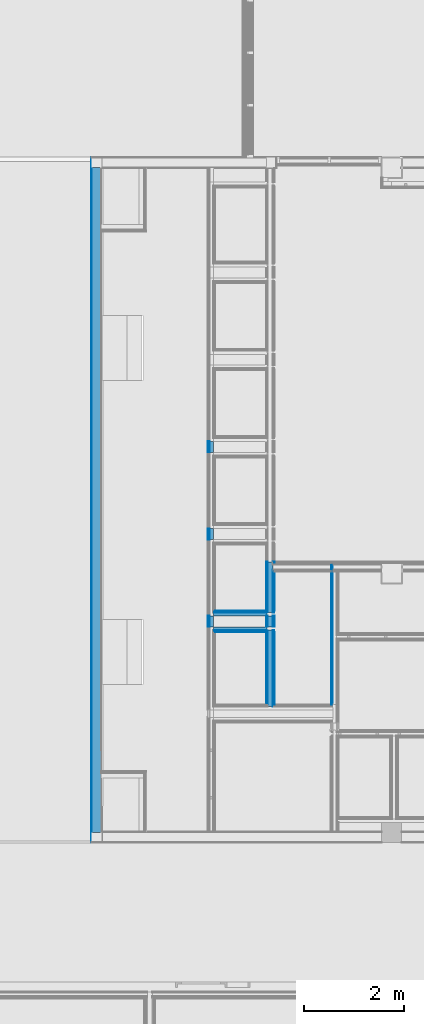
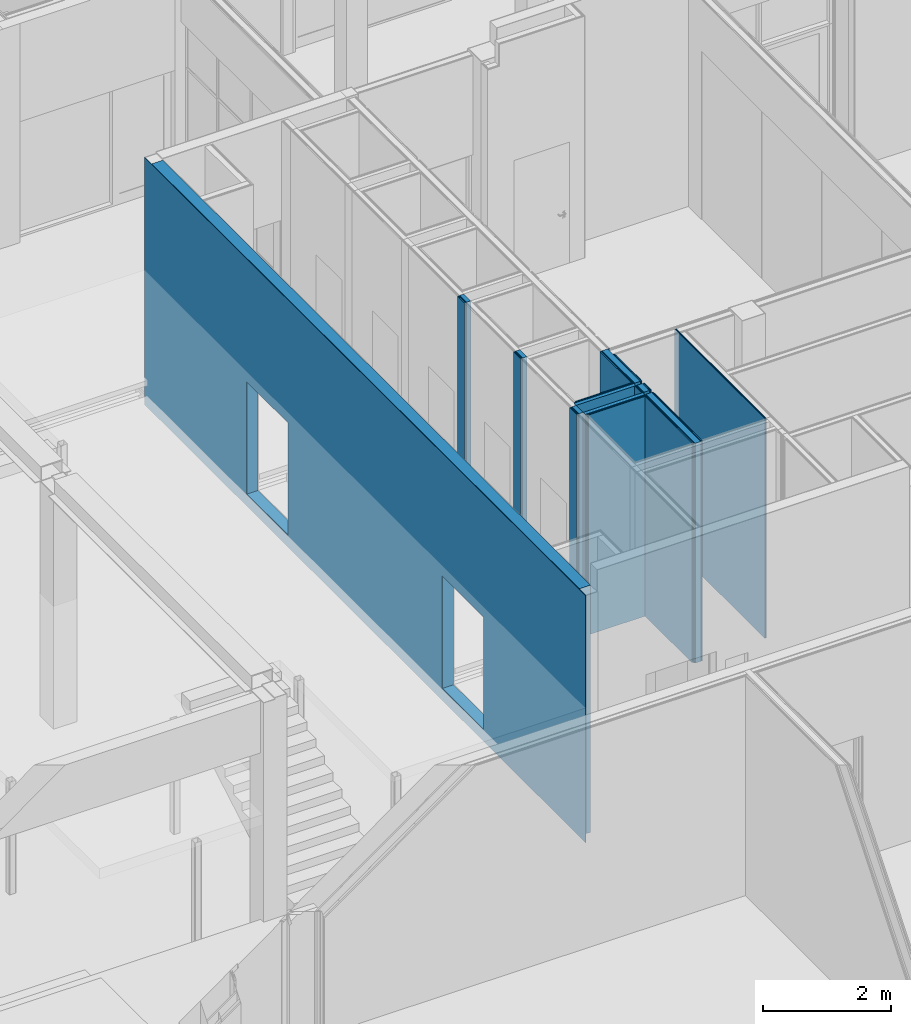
# One storey, part 204 of 260: 32 building element parts, 4 openings, 8 elements without a shape of their own.
"""IFC2X3 building model written with IfcOpenShell, lengths in millimetres."""

from ifc_helpers import new_model, entity, si_unit, converted_unit, derived_unit, money_unit, direction, frame, origin_with_axes, place, context, subcontext, project, spatial, faceted_brep, material, type_object, element, aggregate, save


model = new_model("IFC2X3")

# Units and contexts
model_context = context("Model", 3, precision=0.01, world=origin_with_axes(), true_north=direction((0.0, 1.0)))
body_context = subcontext(model_context, "Body", "Model", "MODEL_VIEW")
ifc_project = project(units=[si_unit("LENGTHUNIT", "METRE", prefix="MILLI"), si_unit("AREAUNIT", "SQUARE_METRE"), si_unit("VOLUMEUNIT", "CUBIC_METRE"), converted_unit("PLANEANGLEUNIT", "DEGREE", entity("IfcPlaneAngleMeasure", 0.0174532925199), si_unit("PLANEANGLEUNIT", "RADIAN"), dimensions=[0, 0, 0, 0, 0, 0, 0]), money_unit("EUR"), converted_unit("TIMEUNIT", "Year", entity("IfcTimeMeasure", 31556926.0), si_unit("TIMEUNIT", "SECOND"), dimensions=[0, 0, 1, 0, 0, 0, 0]), si_unit("MASSUNIT", "GRAM", prefix="KILO"), si_unit("THERMODYNAMICTEMPERATUREUNIT", "DEGREE_CELSIUS"), si_unit("LUMINOUSINTENSITYUNIT", "LUMEN"), si_unit("ENERGYUNIT", "JOULE", prefix="MEGA"), derived_unit("THERMALCONDUCTANCEUNIT", [(si_unit("POWERUNIT", "WATT"), 1), (si_unit("LENGTHUNIT", "METRE"), -1), (si_unit("THERMODYNAMICTEMPERATUREUNIT", "KELVIN"), -1)]), derived_unit("SPECIFICHEATCAPACITYUNIT", [(si_unit("ENERGYUNIT", "JOULE"), 1), (si_unit("MASSUNIT", "GRAM", prefix="KILO"), -1), (si_unit("THERMODYNAMICTEMPERATUREUNIT", "KELVIN"), -1)]), derived_unit("MASSDENSITYUNIT", [(si_unit("MASSUNIT", "GRAM", prefix="KILO"), 1), (si_unit("VOLUMEUNIT", "CUBIC_METRE"), -1)])], contexts=[model_context])

# Site, building, storey
site_placement = place(None, origin_with_axes())
site = spatial("IfcSite", under=ifc_project, at=site_placement, Name="Kolde pst 67a", CompositionType="ELEMENT")
building_placement = place(site_placement, origin_with_axes())
building = spatial("IfcBuilding", under=site, at=building_placement, Name="Riigigümnaasium", CompositionType="ELEMENT")
storey_placement = place(building_placement, origin_with_axes())
storey = spatial("IfcBuildingStorey", under=building, at=storey_placement, Name="1. korrus", CompositionType="ELEMENT", Elevation=0.0)

# Wall, building element parts
wall_type_1 = type_object("IfcWallType", Name="SS-PK-10/5_vill100+plaat+värv 175", PredefinedType="NOTDEFINED")
wall_1_placement = place(storey_placement, frame((67430.8800942, 13462.4993986, 0.0), z_axis=(0.0, 0.0, 1.0), x_axis=(1.07894535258e-06, 0.999999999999, 0.0)))
wall_1 = element("IfcWall", 1, at=wall_1_placement, inside=storey, type_object=wall_type_1, Name="Sisesein")
ifc_material_1 = material(Name="_VIIMISTLUSKIHT - viimistlus vastavalt SA osale")
building_element_part_1_placement = place(wall_1_placement, origin_with_axes())
building_element_part_1 = element("IfcBuildingElementPart", 2, at=building_element_part_1_placement, material=ifc_material_1, Name="_VIIMISTLUSKIHT - viimistlus vastavalt SA osale", context=body_context, shape_type="Brep", body=[
    faceted_brep([(1457.57821743, 0.0, 4185.0), (1457.57824453, -15.0, 4185.0), (1457.57824453, -15.0, 0.0), (1457.57821743, 0.0, 0.0), (-0.000384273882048, -15.0, 4185.0), (-0.000411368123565, 0.0, 4185.0), (-0.000384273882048, -15.0, 0.0), (-0.000411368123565, 0.0, 0.0)], [[[0, 1, 2, 3]], [[4, 1, 0, 5]], [[1, 4, 6, 2]], [[3, 2, 6, 7]], [[5, 0, 3, 7]], [[4, 5, 7, 6]]]),
    faceted_brep([(1781.50057256, 0.0, 4185.0), (1781.50058876, -15.0, 4185.0), (1781.50058876, -15.0, 0.0), (1781.50057256, 0.0, 0.0), (1563.57824453, -15.0, 4185.0), (1563.57821743, 0.0, 4185.0), (1563.57824453, -15.0, 0.0), (1563.57821743, 0.0, 0.0)], [[[0, 1, 2, 3]], [[4, 1, 0, 5]], [[1, 4, 6, 2]], [[3, 2, 6, 7]], [[5, 0, 3, 7]], [[4, 5, 7, 6]]]),
    faceted_brep([(2867.83404992, 0.0, 4185.0), (2867.83404992, -15.0, 4185.0), (2867.83404992, -15.0, 0.0), (2867.83404992, 0.0, 0.0), (1887.50058876, -15.0, 4185.0), (1887.50057256, 0.0, 4185.0), (1887.50058876, -15.0, 0.0), (1887.50057256, 0.0, 0.0)], [[[0, 1, 2, 3]], [[4, 1, 0, 5]], [[1, 4, 6, 2]], [[7, 3, 2, 6]], [[5, 0, 3, 7]], [[4, 5, 7, 6]]]),
])
ifc_material_2 = material(Name="_PLAATMATERJAL - kipsplaat veekindel")
building_element_part_2_placement = place(wall_1_placement, origin_with_axes())
building_element_part_2 = element("IfcBuildingElementPart", 3, at=building_element_part_2_placement, material=ifc_material_2, Name="_PLAATMATERJAL - kipsplaat veekindel", context=body_context, shape_type="Brep", body=[
    faceted_brep([(1472.57824453, -15.0, 4185.0), (1472.57826711, -27.5, 4185.0), (1472.57826711, -27.5, 0.0), (1472.57824453, -15.0, 0.0), (-15.0003616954, -27.5, 4185.0), (-15.0003842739, -15.0, 4185.0), (-15.0003616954, -27.5, 0.0), (-15.0003842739, -15.0, 0.0)], [[[0, 1, 2, 3]], [[4, 1, 0, 5]], [[1, 4, 6, 2]], [[3, 2, 6, 7]], [[5, 0, 3, 7]], [[4, 5, 7, 6]]]),
    faceted_brep([(1781.50058876, -15.0, 4185.0), (1781.50060226, -27.5, 4185.0), (1781.50060226, -27.5, 0.0), (1781.50058876, -15.0, 0.0), (1563.57826711, -27.5, 4185.0), (1563.57824453, -15.0, 4185.0), (1563.57826711, -27.5, 0.0), (1563.57824453, -15.0, 0.0)], [[[0, 1, 2, 3]], [[4, 1, 0, 5]], [[1, 4, 6, 2]], [[3, 2, 6, 7]], [[5, 0, 3, 7]], [[4, 5, 7, 6]]]),
    faceted_brep([(2867.83404992, -15.0, 4185.0), (2867.83404992, -27.5, 4185.0), (2867.83404992, -27.5, 0.0), (2867.83404992, -15.0, 0.0), (1872.50060226, -27.5, 4185.0), (1872.50058876, -15.0, 4185.0), (1872.50060226, -27.5, 0.0), (1872.50058876, -15.0, 0.0)], [[[0, 1, 2, 3]], [[4, 1, 0, 5]], [[1, 4, 6, 2]], [[7, 3, 2, 6]], [[5, 0, 3, 7]], [[4, 5, 7, 6]]]),
])
building_element_part_3_placement = place(wall_1_placement, origin_with_axes())
building_element_part_3 = element("IfcBuildingElementPart", 4, at=building_element_part_3_placement, material=ifc_material_2, Name="_PLAATMATERJAL - kipsplaat veekindel", context=body_context, shape_type="Brep", body=[
    faceted_brep([(1485.07826711, -27.5, 4185.0), (1485.07828968, -40.0, 4185.0), (1485.07828968, -40.0, 0.0), (1485.07826711, -27.5, 0.0), (-27.5003391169, -40.0, 4185.0), (-27.5003616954, -27.5, 4185.0), (-27.5003391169, -40.0, 0.0), (-27.5003616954, -27.5, 0.0)], [[[0, 1, 2, 3]], [[4, 1, 0, 5]], [[1, 4, 6, 2]], [[3, 2, 6, 7]], [[5, 0, 3, 7]], [[4, 5, 7, 6]]]),
    faceted_brep([(1781.50060226, -27.5, 4185.0), (1781.50061577, -40.0, 4185.0), (1781.50061577, -40.0, 0.0), (1781.50060226, -27.5, 0.0), (1563.57828968, -40.0, 4185.0), (1563.57826711, -27.5, 4185.0), (1563.57828968, -40.0, 0.0), (1563.57826711, -27.5, 0.0)], [[[0, 1, 2, 3]], [[4, 1, 0, 5]], [[1, 4, 6, 2]], [[3, 2, 6, 7]], [[5, 0, 3, 7]], [[4, 5, 7, 6]]]),
    faceted_brep([(2867.83404992, -27.5, 4185.0), (2867.83404992, -40.0, 4185.0), (2867.83404992, -40.0, 0.0), (2867.83404992, -27.5, 0.0), (1860.00061577, -40.0, 4185.0), (1860.00060226, -27.5, 4185.0), (1860.00061577, -40.0, 0.0), (1860.00060226, -27.5, 0.0)], [[[0, 1, 2, 3]], [[4, 1, 0, 5]], [[1, 4, 6, 2]], [[7, 3, 2, 6]], [[5, 0, 3, 7]], [[4, 5, 7, 6]]]),
])
ifc_material_3 = material(Name="_KARKASS - puitpruss 100x50mm vertikaalne, samm 600mm, vahel mineraalvill, helineeldetegur αw = 1.0, ISOVER ACOUSTIC 100mm või samaväärne")
building_element_part_4_placement = place(wall_1_placement, origin_with_axes())
building_element_part_4 = element("IfcBuildingElementPart", 5, at=building_element_part_4_placement, material=ifc_material_3, Name="_KARKASS - puitpruss 100x50mm vertikaalne, samm 600mm, vahel mineraalvill, helineeldetegur αw = 1.0, ISOVER ACOUSTIC 100mm või samaväärne", context=body_context, shape_type="Brep", body=[
    faceted_brep([(1497.57828968, -40.0, 4185.0), (1497.57847031, -140.0, 4185.0), (1497.57847031, -140.0, 0.0), (1497.57828968, -40.0, 0.0), (-40.0001584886, -140.0, 4185.0), (-40.0003391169, -40.0, 4185.0), (-40.0001584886, -140.0, 0.0), (-40.0003391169, -40.0, 0.0)], [[[0, 1, 2, 3]], [[4, 1, 0, 5]], [[1, 4, 6, 2]], [[3, 2, 6, 7]], [[5, 0, 3, 7]], [[4, 5, 7, 6]]]),
    faceted_brep([(1781.50061577, -40.0, 4185.0), (1781.5007238, -140.0, 4185.0), (1781.5007238, -140.0, 0.0), (1781.50061577, -40.0, 0.0), (1563.57847031, -140.0, 4185.0), (1563.57828968, -40.0, 4185.0), (1563.57847031, -140.0, 0.0), (1563.57828968, -40.0, 0.0)], [[[0, 1, 2, 3]], [[4, 1, 0, 5]], [[1, 4, 6, 2]], [[3, 2, 6, 7]], [[5, 0, 3, 7]], [[4, 5, 7, 6]]]),
    faceted_brep([(2867.83404992, -40.0, 4185.0), (2867.83404992, -140.0, 4185.0), (2867.83404992, -140.0, 0.0), (2867.83404992, -40.0, 0.0), (1847.5007238, -140.0, 4185.0), (1847.50061577, -40.0, 4185.0), (1847.5007238, -140.0, 0.0), (1847.50061577, -40.0, 0.0)], [[[0, 1, 2, 3]], [[4, 1, 0, 5]], [[1, 4, 6, 2]], [[7, 3, 2, 6]], [[5, 0, 3, 7]], [[4, 5, 7, 6]]]),
])
ifc_material_4 = material(Name="_PLAATMATERJAL - tuletõkkekipsplaat, Knauf Red GKF või samaväärne")
building_element_part_5_placement = place(wall_1_placement, origin_with_axes())
building_element_part_5 = element("IfcBuildingElementPart", 6, at=building_element_part_5_placement, material=ifc_material_4, Name="_PLAATMATERJAL - tuletõkkekipsplaat, Knauf Red GKF või samaväärne", context=body_context, shape_type="Brep", body=[
    faceted_brep([(2707.51178339, -140.0, 4185.0), (2707.51178879, -155.0, 4185.0), (2707.51178879, -155.0, 0.0), (2707.51178339, -140.0, 0.0), (1847.50074001, -155.0, 4185.0), (1847.5007238, -140.0, 4185.0), (1847.50074001, -155.0, 0.0), (1847.5007238, -140.0, 0.0)], [[[0, 1, 2, 3]], [[4, 1, 0, 5]], [[1, 4, 6, 2]], [[7, 3, 2, 6]], [[5, 0, 3, 7]], [[4, 5, 7, 6]]]),
    faceted_brep([(1497.57847031, -140.0, 4185.0), (1497.57849741, -155.0, 4185.0), (1497.57849741, -155.0, 0.0), (1497.57847031, -140.0, 0.0), (-40.0001313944, -155.0, 4185.0), (-40.0001584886, -140.0, 4185.0), (-40.0001313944, -155.0, 0.0), (-40.0001584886, -140.0, 0.0)], [[[0, 1, 2, 3]], [[4, 1, 0, 5]], [[1, 4, 6, 2]], [[3, 2, 6, 7]], [[5, 0, 3, 7]], [[4, 5, 7, 6]]]),
    faceted_brep([(1781.5007238, -140.0, 4185.0), (1781.50074001, -155.0, 4185.0), (1781.50074001, -155.0, 0.0), (1781.5007238, -140.0, 0.0), (1563.57849741, -155.0, 4185.0), (1563.57847031, -140.0, 4185.0), (1563.57849741, -155.0, 0.0), (1563.57847031, -140.0, 0.0)], [[[0, 1, 2, 3]], [[4, 1, 0, 5]], [[1, 4, 6, 2]], [[3, 2, 6, 7]], [[5, 0, 3, 7]], [[4, 5, 7, 6]]]),
    faceted_brep([(2867.83404992, -140.0, 4185.0), (2867.83404992, -155.0, 4185.0), (2867.83404992, -155.0, 0.0), (2867.83404992, -140.0, 0.0), (2847.51178879, -155.0, 4185.0), (2847.51178339, -140.0, 4185.0), (2847.51178879, -155.0, 0.0), (2847.51178339, -140.0, 0.0)], [[[0, 1, 2, 3]], [[4, 1, 0, 5]], [[1, 4, 6, 2]], [[2, 6, 7, 3]], [[5, 0, 3, 7]], [[4, 5, 7, 6]]]),
])
building_element_part_6_placement = place(wall_1_placement, origin_with_axes())
building_element_part_6 = element("IfcBuildingElementPart", 7, at=building_element_part_6_placement, material=ifc_material_4, Name="_PLAATMATERJAL - tuletõkkekipsplaat, Knauf Red GKF või samaväärne", context=body_context, shape_type="Brep", body=[
    faceted_brep([(2692.51178879, -155.0, 4185.0), (2692.51179419, -170.0, 4185.0), (2692.51179419, -170.0, 0.0), (2692.51178879, -155.0, 0.0), (1847.50075621, -170.0, 4185.0), (1847.50074001, -155.0, 4185.0), (1847.50075621, -170.0, 0.0), (1847.50074001, -155.0, 0.0)], [[[0, 1, 2, 3]], [[4, 1, 0, 5]], [[1, 4, 6, 2]], [[7, 3, 2, 6]], [[5, 0, 3, 7]], [[4, 5, 7, 6]]]),
    faceted_brep([(1497.57849741, -155.0, 4185.0), (1497.5785245, -170.0, 4185.0), (1497.5785245, -170.0, 0.0), (1497.57849741, -155.0, 0.0), (-40.0001043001, -170.0, 4185.0), (-40.0001313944, -155.0, 4185.0), (-40.0001043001, -170.0, 0.0), (-40.0001313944, -155.0, 0.0)], [[[0, 1, 2, 3]], [[4, 1, 0, 5]], [[1, 4, 6, 2]], [[3, 2, 6, 7]], [[5, 0, 3, 7]], [[4, 5, 7, 6]]]),
    faceted_brep([(1781.50074001, -155.0, 4185.0), (1781.50075621, -170.0, 4185.0), (1781.50075621, -170.0, 0.0), (1781.50074001, -155.0, 0.0), (1563.5785245, -170.0, 4185.0), (1563.57849741, -155.0, 4185.0), (1563.5785245, -170.0, 0.0), (1563.57849741, -155.0, 0.0)], [[[0, 1, 2, 3]], [[4, 1, 0, 5]], [[1, 4, 6, 2]], [[3, 2, 6, 7]], [[5, 0, 3, 7]], [[4, 5, 7, 6]]]),
    faceted_brep([(2867.83404992, -155.0, 4185.0), (2867.83404992, -170.0, 4185.0), (2867.83404992, -170.0, 0.0), (2867.83404992, -155.0, 0.0), (2847.51179419, -170.0, 4185.0), (2847.51178879, -155.0, 4185.0), (2847.51179419, -170.0, 0.0), (2847.51178879, -155.0, 0.0)], [[[0, 1, 2, 3]], [[4, 1, 0, 5]], [[1, 4, 6, 2]], [[2, 6, 7, 3]], [[5, 0, 3, 7]], [[4, 5, 7, 6]]]),
])
building_element_part_7_placement = place(wall_1_placement, origin_with_axes())
building_element_part_7 = element("IfcBuildingElementPart", 8, at=building_element_part_7_placement, material=ifc_material_1, Name="_VIIMISTLUSKIHT - viimistlus vastavalt SA osale", context=body_context, shape_type="Brep", body=[
    faceted_brep([(2677.51179419, -170.0, 4185.0), (2677.51179599, -175.0, 4185.0), (2677.51179599, -175.0, 0.0), (2677.51179419, -170.0, 0.0), (1887.50076161, -175.0, 4185.0), (1887.50075621, -170.0, 4185.0), (1887.50076161, -175.0, 0.0), (1887.50075621, -170.0, 0.0)], [[[0, 1, 2, 3]], [[4, 1, 0, 5]], [[1, 4, 6, 2]], [[7, 3, 2, 6]], [[5, 0, 3, 7]], [[4, 5, 7, 6]]]),
    faceted_brep([(1457.5785245, -170.0, 4185.0), (1457.57853353, -175.0, 4185.0), (1457.57853353, -175.0, 0.0), (1457.5785245, -170.0, 0.0), (-9.52686516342e-05, -175.0, 4185.0), (-0.000104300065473, -170.0, 4185.0), (-9.52686516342e-05, -175.0, 0.0), (-0.000104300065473, -170.0, 0.0)], [[[0, 1, 2, 3]], [[4, 1, 0, 5]], [[1, 4, 6, 2]], [[3, 2, 6, 7]], [[5, 0, 3, 7]], [[4, 5, 7, 6]]]),
    faceted_brep([(1781.50075621, -170.0, 4185.0), (1781.50076161, -175.0, 4185.0), (1781.50076161, -175.0, 0.0), (1781.50075621, -170.0, 0.0), (1563.57853353, -175.0, 4185.0), (1563.5785245, -170.0, 4185.0), (1563.57853353, -175.0, 0.0), (1563.5785245, -170.0, 0.0)], [[[0, 1, 2, 3]], [[4, 1, 0, 5]], [[1, 4, 6, 2]], [[3, 2, 6, 7]], [[5, 0, 3, 7]], [[4, 5, 7, 6]]]),
    faceted_brep([(2867.83404992, -170.0, 4185.0), (2867.83404992, -175.0, 4185.0), (2867.83404992, -175.0, 0.0), (2867.83404992, -170.0, 0.0), (2847.51179599, -175.0, 4185.0), (2847.51179419, -170.0, 4185.0), (2847.51179599, -175.0, 0.0), (2847.51179419, -170.0, 0.0)], [[[0, 1, 2, 3]], [[4, 1, 0, 5]], [[1, 4, 6, 2]], [[2, 6, 7, 3]], [[5, 0, 3, 7]], [[4, 5, 7, 6]]]),
])
aggregate(wall_1, [building_element_part_1, building_element_part_2, building_element_part_3, building_element_part_4, building_element_part_5, building_element_part_6, building_element_part_7])

# Wall, openings, building element parts
wall_type_2 = type_object("IfcWallType", Name="SS-RB-20/1_+2 krohv 55 dB 220", PredefinedType="NOTDEFINED")
wall_2_placement = place(storey_placement, frame((64129.9506145, 10689.9619409, -520.0), z_axis=(0.0, 0.0, 1.0), x_axis=(-3.00795503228e-05, 0.999999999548, 0.0)))
wall_2 = element("IfcWall", 9, at=wall_2_placement, inside=storey, type_object=wall_type_2, Name="Sisesein")
opening_1_placement = place(wall_2_placement, origin_with_axes())
element("IfcOpeningElement", 10, at=opening_1_placement, cuts=wall_2, Name="Pale", context=body_context, shape_type="Brep", body=[
    faceted_brep([(10.0, 200.0, 0.0), (0.0, 200.0, 0.0), (0.0, 200.0, 4705.0), (10.0, 200.0, 4705.0), (10.0, -9.99999999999, 0.0), (0.0, -9.99999999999, 0.0), (0.0, -9.99999999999, 4705.0), (10.0, -9.99999999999, 4705.0)], [[[0, 1, 2, 3]], [[0, 4, 5, 1]], [[1, 5, 6, 2]], [[3, 2, 6, 7]], [[4, 0, 3, 7]], [[5, 4, 7, 6]]]),
    faceted_brep([(210.0, 200.0, 0.0), (10.0, 200.0, 0.0), (10.0, 200.0, 4705.0), (210.0, 200.0, 4705.0), (210.0, 0.0, 0.0), (10.0, 0.0, 0.0), (10.0, 0.0, 4705.0), (210.0, 0.0, 4705.0)], [[[0, 1, 2, 3]], [[0, 4, 5, 1]], [[1, 5, 6, 2]], [[3, 2, 6, 7]], [[4, 0, 3, 7]], [[5, 4, 7, 6]]]),
])
opening_2_placement = place(wall_2_placement, frame((13760.038038, 0.0, 0.0), z_axis=(0.0, 0.0, 1.0), x_axis=(1.0, 0.0, 0.0)))
element("IfcOpeningElement", 11, at=opening_2_placement, cuts=wall_2, Name="Pale", context=body_context, shape_type="Brep", body=[
    faceted_brep([(-10.0, -10.0, 0.0), (0.0, -10.0, 0.0), (0.0, -10.0, 4705.0), (-10.0, -10.0, 4705.0), (-10.0, 200.0, 0.0), (0.0, 200.0, 0.0), (0.0, 200.0, 4705.0), (-10.0, 200.0, 4705.0)], [[[0, 1, 2, 3]], [[0, 4, 5, 1]], [[1, 5, 6, 2]], [[3, 2, 6, 7]], [[4, 0, 3, 7]], [[5, 4, 7, 6]]]),
    faceted_brep([(-210.0, 0.0, 0.0), (-10.0, 0.0, 0.0), (-10.0, 0.0, 4705.0), (-210.0, 0.0, 4705.0), (-210.0, 200.0, 0.0), (-10.0, 200.0, 0.0), (-10.0, 200.0, 4705.0), (-210.0, 200.0, 4705.0)], [[[0, 1, 2, 3]], [[0, 4, 5, 1]], [[1, 5, 6, 2]], [[3, 2, 6, 7]], [[4, 0, 3, 7]], [[5, 4, 7, 6]]]),
])
opening_3_placement = place(wall_2_placement, frame((9930.06634312, 0.0, 220.0), z_axis=(0.0, 0.0, 1.0), x_axis=(1.0, 0.0, 0.0)))
element("IfcOpeningElement", 12, at=opening_3_placement, cuts=wall_2, Name="Ukseava", context=body_context, shape_type="Brep", body=[
    faceted_brep([(649.978577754, 220.0, 0.0), (649.978577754, 220.0, 2145.0), (649.978577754, -440.0, 2145.0), (649.978577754, -440.0, 0.0), (-649.978577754, 220.0, 0.0), (-649.978577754, 220.0, 2145.0), (-649.978577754, -440.0, 2145.0), (-649.978577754, -440.0, 0.0)], [[[0, 1, 2, 3]], [[0, 4, 5, 1]], [[1, 5, 6, 2]], [[3, 2, 6, 7]], [[4, 0, 3, 7]], [[5, 4, 7, 6]]]),
])
opening_4_placement = place(wall_2_placement, frame((3829.99984867, 0.0, 220.0), z_axis=(0.0, 0.0, 1.0), x_axis=(1.0, 0.0, 0.0)))
element("IfcOpeningElement", 13, at=opening_4_placement, cuts=wall_2, Name="Ukseava", context=body_context, shape_type="Brep", body=[
    faceted_brep([(-650.000151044, -440.0, 0.0), (-650.000151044, -440.0, 2145.0), (-650.000151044, 220.0, 2145.0), (-650.000151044, 220.0, 0.0), (650.000151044, -440.0, 0.0), (650.000151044, -440.0, 2145.0), (650.000151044, 220.0, 2145.0), (650.000151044, 220.0, 0.0)], [[[0, 1, 2, 3]], [[0, 4, 5, 1]], [[1, 5, 6, 2]], [[3, 2, 6, 7]], [[4, 0, 3, 7]], [[5, 4, 7, 6]]]),
])
building_element_part_8_placement = place(wall_2_placement, origin_with_axes())
building_element_part_8 = element("IfcBuildingElementPart", 14, at=building_element_part_8_placement, material=ifc_material_1, Name="_VIIMISTLUSKIHT - viimistlus vastavalt SA osale", context=body_context, shape_type="Brep", body=[
    faceted_brep([(0.0, 210.0, 0.0), (0.0, 210.0, 4705.0), (13760.038038, 210.0, 4705.0), (13760.038038, 210.0, 0.0), (10580.0449209, 210.0, 2365.0), (9280.08776537, 210.0, 2365.0), (9280.08776537, 210.0, 220.0), (10580.0449209, 210.0, 220.0), (4479.99999971, 210.0, 220.0), (4479.99999971, 210.0, 2365.0), (3179.99969762, 210.0, 2365.0), (3179.99969762, 210.0, 220.0), (0.0, 200.0, 4705.0), (0.0, 200.0, 0.0), (13760.038038, 200.0, 4705.0), (13760.038038, 200.0, 0.0), (9280.08776537, 200.0, 2365.0), (10580.0449209, 200.0, 2365.0), (9280.08776537, 200.0, 220.0), (10580.0449209, 200.0, 220.0), (4479.99999971, 200.0, 220.0), (4479.99999971, 200.0, 2365.0), (3179.99969762, 200.0, 2365.0), (3179.99969762, 200.0, 220.0)], [[[0, 1, 2, 3], [4, 5, 6, 7], [8, 9, 10, 11]], [[12, 1, 0, 13]], [[1, 12, 14, 2]], [[14, 15, 3, 2]], [[13, 0, 3, 15]], [[16, 5, 4, 17]], [[18, 6, 5, 16]], [[19, 7, 6, 18]], [[17, 4, 7, 19]], [[20, 21, 9, 8]], [[21, 22, 10, 9]], [[22, 23, 11, 10]], [[23, 20, 8, 11]], [[12, 13, 15, 14], [18, 16, 17, 19], [20, 23, 22, 21]]]),
])
ifc_material_5 = material(Name="_KANDETARIND - monteeritav raudbetoon vastavalt EK osale")
building_element_part_9_placement = place(wall_2_placement, origin_with_axes())
building_element_part_9 = element("IfcBuildingElementPart", 15, at=building_element_part_9_placement, material=ifc_material_5, Name="_KANDETARIND - monteeritav raudbetoon vastavalt EK osale", context=body_context, shape_type="Brep", body=[
    faceted_brep([(210.0, 200.0, 0.0), (210.0, 200.0, 4705.0), (13550.038038, 200.0, 4705.0), (13550.038038, 200.0, 0.0), (10580.0449209, 200.0, 2365.0), (9280.08776537, 200.0, 2365.0), (9280.08776537, 200.0, 220.0), (10580.0449209, 200.0, 220.0), (4479.99999971, 200.0, 220.0), (4479.99999971, 200.0, 2365.0), (3179.99969762, 200.0, 2365.0), (3179.99969762, 200.0, 220.0), (210.0, 0.0, 0.0), (210.0, 0.0, 4705.0), (13550.038038, 0.0, 4705.0), (13550.038038, 0.0, 0.0), (9280.08776537, 0.0, 2365.0), (10580.0449209, 0.0, 2365.0), (9280.08776537, 0.0, 220.0), (10580.0449209, 0.0, 220.0), (4479.99999971, 0.0, 220.0), (4479.99999971, 0.0, 2365.0), (3179.99969762, 0.0, 2365.0), (3179.99969762, 0.0, 220.0)], [[[0, 1, 2, 3], [4, 5, 6, 7], [8, 9, 10, 11]], [[12, 13, 1, 0]], [[1, 13, 14, 2]], [[15, 3, 2, 14]], [[12, 0, 3, 15]], [[16, 5, 4, 17]], [[18, 6, 5, 16]], [[19, 7, 6, 18]], [[17, 4, 7, 19]], [[20, 21, 9, 8]], [[21, 22, 10, 9]], [[22, 23, 11, 10]], [[23, 20, 8, 11]], [[13, 12, 15, 14], [18, 16, 17, 19], [20, 23, 22, 21]]]),
])
aggregate(wall_2, [building_element_part_8, building_element_part_9])

# Wall, building element parts
wall_type_3 = type_object("IfcWallType", Name="SS-MK-7,5/1_plaat+värv 145", PredefinedType="NOTDEFINED")
wall_3_placement = place(storey_placement, frame((68889.9994775, 16130.0101654, 0.0), z_axis=(0.0, 0.0, 1.0), x_axis=(0.0, -1.0, 0.0)))
wall_3 = element("IfcWall", 16, at=wall_3_placement, inside=storey, type_object=wall_type_3, Name="Sisesein")
building_element_part_10_placement = place(wall_3_placement, origin_with_axes())
building_element_part_10 = element("IfcBuildingElementPart", 17, at=building_element_part_10_placement, material=ifc_material_2, Name="_PLAATMATERJAL - kipsplaat veekindel", context=body_context, shape_type="Brep", body=[
    faceted_brep([(-140.000091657, -127.5, 4185.0), (-140.000082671, -115.000000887, 4185.0), (-140.000082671, -115.0, 0.0), (-140.000091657, -127.5, 0.0), (2667.51022955, -115.0, 4185.0), (2667.51022955, -127.5, 4185.0), (2667.51022955, -115.0, 0.0), (2667.51022955, -127.5, 0.0)], [[[0, 1, 2, 3]], [[4, 1, 0, 5]], [[1, 4, 6, 2]], [[7, 3, 2, 6]], [[5, 0, 3, 7]], [[4, 5, 7, 6]]]),
])
building_element_part_11_placement = place(wall_3_placement, origin_with_axes())
building_element_part_11 = element("IfcBuildingElementPart", 18, at=building_element_part_11_placement, material=ifc_material_2, Name="_PLAATMATERJAL - kipsplaat veekindel", context=body_context, shape_type="Brep", body=[
    faceted_brep([(-140.000100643, -139.99999734, 4185.0), (-140.000091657, -127.5, 4185.0), (-140.000091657, -127.5, 0.0), (-140.000100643, -140.0, 0.0), (2667.51022955, -127.5, 4185.0), (2667.51022955, -140.0, 4185.0), (2667.51022955, -127.5, 0.0), (2667.51022955, -140.0, 0.0)], [[[0, 1, 2, 3]], [[4, 1, 0, 5]], [[1, 4, 6, 2]], [[7, 3, 2, 6]], [[5, 0, 3, 7]], [[4, 5, 7, 6]]]),
])
building_element_part_12_placement = place(wall_3_placement, origin_with_axes())
building_element_part_12 = element("IfcBuildingElementPart", 19, at=building_element_part_12_placement, material=ifc_material_1, Name="_VIIMISTLUSKIHT - viimistlus vastavalt SA osale", context=body_context, shape_type="Brep", body=[
    faceted_brep([(-140.000104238, -145.0, 4185.0), (-140.000100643, -139.99999734, 4185.0), (-140.000100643, -140.0, 0.0), (-140.000104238, -145.0, 0.0), (2667.51022955, -140.0, 4185.0), (2667.51022955, -145.0, 4185.0), (2667.51022955, -140.0, 0.0), (2667.51022955, -145.0, 0.0)], [[[0, 1, 2, 3]], [[4, 1, 0, 5]], [[1, 4, 6, 2]], [[7, 3, 2, 6]], [[5, 0, 3, 7]], [[4, 5, 7, 6]]]),
])
aggregate(wall_3, [building_element_part_10, building_element_part_11, building_element_part_12])

wall_type_4 = type_object("IfcWallType", Name="SS-MK-66/3_šahti sein+plaat 106", PredefinedType="NOTDEFINED")
wall_4_placement = place(storey_placement, frame((67450.8824177, 15349.9999712, 0.0), z_axis=(0.0, 0.0, 1.0), x_axis=(-1.0, -1.39468047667e-09, 0.0)))
wall_4 = element("IfcWall", 20, at=wall_4_placement, inside=storey, type_object=wall_type_4, Name="Sisesein")
ifc_material_6 = material(Name="_KARKASS - metallkarkass CW 75/50, mineraalvill karkassi vahel")
building_element_part_13_placement = place(wall_4_placement, origin_with_axes())
building_element_part_13 = element("IfcBuildingElementPart", 21, at=building_element_part_13_placement, material=ifc_material_6, Name="_KARKASS - metallkarkass CW 75/50, mineraalvill karkassi vahel", context=body_context, shape_type="Brep", body=[
    faceted_brep([(1074.99488226, 39.9999985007, 4185.0), (5.57776047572e-08, 40.0, 4185.0), (5.57776047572e-08, 40.0, 0.0), (1074.99488226, 39.9999985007, 0.0), (1.47835521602e-07, 106.0, 4185.0), (1074.99488235, 105.999998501, 4185.0), (1.47835521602e-07, 106.0, 0.0), (1074.99488235, 105.999998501, 0.0)], [[[0, 1, 2, 3]], [[4, 1, 0, 5]], [[1, 4, 6, 2]], [[7, 3, 2, 6]], [[5, 0, 3, 7]], [[4, 5, 7, 6]]]),
])
building_element_part_14_placement = place(wall_4_placement, origin_with_axes())
building_element_part_14 = element("IfcBuildingElementPart", 22, at=building_element_part_14_placement, material=ifc_material_2, Name="_PLAATMATERJAL - kipsplaat veekindel", context=body_context, shape_type="Brep", body=[
    faceted_brep([(1062.49488224, 27.4999985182, 4185.0), (3.83550968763e-08, 27.5, 4185.0), (3.83550968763e-08, 27.5, 0.0), (1062.49488224, 27.4999985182, 0.0), (5.57776047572e-08, 40.0, 4185.0), (1062.49488226, 39.9999985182, 4185.0), (5.57776047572e-08, 40.0, 0.0), (1062.49488226, 39.9999985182, 0.0)], [[[0, 1, 2, 3]], [[4, 1, 0, 5]], [[1, 4, 6, 2]], [[7, 3, 2, 6]], [[5, 0, 3, 7]], [[4, 5, 7, 6]]]),
])
building_element_part_15_placement = place(wall_4_placement, origin_with_axes())
building_element_part_15 = element("IfcBuildingElementPart", 23, at=building_element_part_15_placement, material=ifc_material_2, Name="_PLAATMATERJAL - kipsplaat veekindel", context=body_context, shape_type="Brep", body=[
    faceted_brep([(1049.99488222, 14.9999985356, 4185.0), (2.09183781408e-08, 15.0, 4185.0), (2.09183781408e-08, 15.0, 0.0), (1049.99488222, 14.9999985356, 0.0), (3.83550968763e-08, 27.5, 4185.0), (1049.99488224, 27.4999985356, 4185.0), (3.83550968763e-08, 27.5, 0.0), (1049.99488224, 27.4999985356, 0.0)], [[[0, 1, 2, 3]], [[4, 1, 0, 5]], [[1, 4, 6, 2]], [[7, 3, 2, 6]], [[5, 0, 3, 7]], [[4, 5, 7, 6]]]),
])
building_element_part_16_placement = place(wall_4_placement, origin_with_axes())
building_element_part_16 = element("IfcBuildingElementPart", 24, at=building_element_part_16_placement, material=ifc_material_1, Name="_VIIMISTLUSKIHT - viimistlus vastavalt SA osale", context=body_context, shape_type="Brep", body=[
    faceted_brep([(1034.9948822, -1.44348710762e-06, 4185.0), (5.00028700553, -6.97220059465e-09, 4185.0), (5.00028700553, -6.97220059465e-09, 0.0), (1034.9948822, -1.44348710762e-06, 0.0), (5.00030321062, 14.999999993, 4185.0), (1034.99488222, 14.9999985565, 4185.0), (5.00030321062, 14.999999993, 0.0), (1034.99488222, 14.9999985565, 0.0)], [[[0, 1, 2, 3]], [[4, 1, 0, 5]], [[1, 4, 6, 2]], [[3, 2, 6, 7]], [[5, 0, 3, 7]], [[4, 5, 7, 6]]]),
])
aggregate(wall_4, [building_element_part_13, building_element_part_14, building_element_part_15, building_element_part_16])

wall_5_placement = place(storey_placement, frame((67450.8821599, 14920.0776306, 0.0), z_axis=(0.0, 0.0, 1.0), x_axis=(-1.0, -7.27337341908e-07, 0.0)))
wall_5 = element("IfcWall", 25, at=wall_5_placement, inside=storey, type_object=wall_type_4, Name="Varisein")
building_element_part_17_placement = place(wall_5_placement, origin_with_axes())
building_element_part_17 = element("IfcBuildingElementPart", 26, at=building_element_part_17_placement, material=ifc_material_1, Name="_VIIMISTLUSKIHT - viimistlus vastavalt SA osale", context=body_context, shape_type="Brep", body=[
    faceted_brep([(1034.99461347, -15.0, 4185.0), (5.00046595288, -15.0, 4185.0), (5.00046595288, -15.0, 0.0), (1034.99461347, -15.0, 0.0), (5.00049304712, 0.0, 4185.0), (1034.99462438, 0.0, 4185.0), (5.00049304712, 0.0, 0.0), (1034.99462438, 0.0, 0.0)], [[[0, 1, 2, 3]], [[4, 1, 0, 5]], [[1, 4, 6, 2]], [[3, 2, 6, 7]], [[5, 0, 3, 7]], [[4, 5, 7, 6]]]),
])
building_element_part_18_placement = place(wall_5_placement, origin_with_axes())
building_element_part_18 = element("IfcBuildingElementPart", 27, at=building_element_part_18_placement, material=ifc_material_2, Name="_PLAATMATERJAL - kipsplaat veekindel", context=body_context, shape_type="Brep", body=[
    faceted_brep([(1049.99460438, -27.5, 4185.0), (0.0, -27.5, 4185.0), (0.0, -27.5, 0.0), (1049.99460438, -27.5, 0.0), (0.0, -15.0, 4185.0), (1049.99461347, -15.0, 4185.0), (0.0, -15.0, 0.0), (1049.99461347, -15.0, 0.0)], [[[0, 1, 2, 3]], [[4, 1, 0, 5]], [[1, 4, 6, 2]], [[7, 3, 2, 6]], [[5, 0, 3, 7]], [[4, 5, 7, 6]]]),
])
building_element_part_19_placement = place(wall_5_placement, origin_with_axes())
building_element_part_19 = element("IfcBuildingElementPart", 28, at=building_element_part_19_placement, material=ifc_material_2, Name="_PLAATMATERJAL - kipsplaat veekindel", context=body_context, shape_type="Brep", body=[
    faceted_brep([(1062.49459529, -40.0, 4185.0), (0.0, -40.0, 4185.0), (0.0, -40.0, 0.0), (1062.49459529, -40.0, 0.0), (0.0, -27.5, 4185.0), (1062.49460438, -27.5, 4185.0), (0.0, -27.5, 0.0), (1062.49460438, -27.5, 0.0)], [[[0, 1, 2, 3]], [[4, 1, 0, 5]], [[1, 4, 6, 2]], [[7, 3, 2, 6]], [[5, 0, 3, 7]], [[4, 5, 7, 6]]]),
])
building_element_part_20_placement = place(wall_5_placement, origin_with_axes())
building_element_part_20 = element("IfcBuildingElementPart", 29, at=building_element_part_20_placement, material=ifc_material_6, Name="_KARKASS - metallkarkass CW 75/50, mineraalvill karkassi vahel", context=body_context, shape_type="Brep", body=[
    faceted_brep([(1074.99454728, -106.0, 4185.0), (0.0, -106.0, 4185.0), (0.0, -106.0, 0.0), (1074.99454728, -106.0, 0.0), (0.0, -40.0, 4185.0), (1074.99459529, -40.0, 4185.0), (0.0, -40.0, 0.0), (1074.99459529, -40.0, 0.0)], [[[0, 1, 2, 3]], [[4, 1, 0, 5]], [[1, 4, 6, 2]], [[7, 3, 2, 6]], [[5, 0, 3, 7]], [[4, 5, 7, 6]]]),
])
aggregate(wall_5, [building_element_part_17, building_element_part_18, building_element_part_19, building_element_part_20])

wall_type_5 = type_object("IfcWallType", Name="SS-MK-7,5/_plaatvarisein 115", PredefinedType="NOTDEFINED")
wall_6_placement = place(storey_placement, frame((66260.8875355, 15026.0768487, 0.0), z_axis=(0.0, 0.0, 1.0), x_axis=(0.0, 1.0, 0.0)))
wall_6 = element("IfcWall", 30, at=wall_6_placement, inside=storey, type_object=wall_type_5, Name="Sisesein")
building_element_part_21_placement = place(wall_6_placement, origin_with_axes())
building_element_part_21 = element("IfcBuildingElementPart", 31, at=building_element_part_21_placement, material=ifc_material_1, Name="_VIIMISTLUSKIHT - viimistlus vastavalt SA osale", context=body_context, shape_type="Brep", body=[
    faceted_brep([(217.923120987, 0.0, 4185.0), (217.923120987, -15.0, 4185.0), (217.923120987, -15.0, 0.0), (217.923120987, 0.0, 0.0), (0.0, -15.0, 4185.0), (0.0, 0.0, 4185.0), (0.0, -15.0, 0.0), (0.0, 0.0, 0.0)], [[[0, 1, 2, 3]], [[4, 1, 0, 5]], [[1, 4, 6, 2]], [[7, 3, 2, 6]], [[5, 0, 3, 7]], [[4, 5, 7, 6]]]),
])
building_element_part_22_placement = place(wall_6_placement, origin_with_axes())
building_element_part_22 = element("IfcBuildingElementPart", 32, at=building_element_part_22_placement, material=ifc_material_2, Name="_PLAATMATERJAL - kipsplaat veekindel", context=body_context, shape_type="Brep", body=[
    faceted_brep([(217.923120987, -15.0, 4185.0), (217.923120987, -27.5, 4185.0), (217.923120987, -27.5, 0.0), (217.923120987, -15.0, 0.0), (0.0, -27.5, 4185.0), (0.0, -15.0, 4185.0), (0.0, -27.5, 0.0), (0.0, -15.0, 0.0)], [[[0, 1, 2, 3]], [[4, 1, 0, 5]], [[1, 4, 6, 2]], [[7, 3, 2, 6]], [[5, 0, 3, 7]], [[4, 5, 7, 6]]]),
])
building_element_part_23_placement = place(wall_6_placement, origin_with_axes())
building_element_part_23 = element("IfcBuildingElementPart", 33, at=building_element_part_23_placement, material=ifc_material_2, Name="_PLAATMATERJAL - kipsplaat veekindel", context=body_context, shape_type="Brep", body=[
    faceted_brep([(217.923120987, -27.5, 4185.0), (217.923120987, -40.0, 4185.0), (217.923120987, -40.0, 0.0), (217.923120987, -27.5, 0.0), (0.0, -40.0, 4185.0), (0.0, -27.5, 4185.0), (0.0, -40.0, 0.0), (0.0, -27.5, 0.0)], [[[0, 1, 2, 3]], [[4, 1, 0, 5]], [[1, 4, 6, 2]], [[7, 3, 2, 6]], [[5, 0, 3, 7]], [[4, 5, 7, 6]]]),
])
building_element_part_24_placement = place(wall_6_placement, origin_with_axes())
building_element_part_24 = element("IfcBuildingElementPart", 34, at=building_element_part_24_placement, material=ifc_material_6, Name="_KARKASS - metallkarkass CW 75/50, mineraalvill karkassi vahel", context=body_context, shape_type="Brep", body=[
    faceted_brep([(217.923120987, -40.0, 4185.0), (217.923120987, -115.0, 4185.0), (217.923120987, -115.0, 0.0), (217.923120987, -40.0, 0.0), (0.0, -115.0, 4185.0), (0.0, -40.0, 4185.0), (0.0, -115.0, 0.0), (0.0, -40.0, 0.0)], [[[0, 1, 2, 3]], [[4, 1, 0, 5]], [[1, 4, 6, 2]], [[7, 3, 2, 6]], [[5, 0, 3, 7]], [[4, 5, 7, 6]]]),
])
aggregate(wall_6, [building_element_part_21, building_element_part_22, building_element_part_23, building_element_part_24])

wall_7_placement = place(storey_placement, frame((66260.8875355, 16776.0768488, 0.0), z_axis=(0.0, 0.0, 1.0), x_axis=(0.0, 1.0, 0.0)))
wall_7 = element("IfcWall", 35, at=wall_7_placement, inside=storey, type_object=wall_type_5, Name="Sisesein")
building_element_part_25_placement = place(wall_7_placement, origin_with_axes())
building_element_part_25 = element("IfcBuildingElementPart", 36, at=building_element_part_25_placement, material=ifc_material_1, Name="_VIIMISTLUSKIHT - viimistlus vastavalt SA osale", context=body_context, shape_type="Brep", body=[
    faceted_brep([(217.923122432, 0.0, 4185.0), (217.923122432, -15.0, 4185.0), (217.923122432, -15.0, 0.0), (217.923122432, 0.0, 0.0), (0.0, -15.0, 4185.0), (0.0, 0.0, 4185.0), (0.0, -15.0, 0.0), (0.0, 0.0, 0.0)], [[[0, 1, 2, 3]], [[4, 1, 0, 5]], [[1, 4, 6, 2]], [[7, 3, 2, 6]], [[5, 0, 3, 7]], [[4, 5, 7, 6]]]),
])
building_element_part_26_placement = place(wall_7_placement, origin_with_axes())
building_element_part_26 = element("IfcBuildingElementPart", 37, at=building_element_part_26_placement, material=ifc_material_2, Name="_PLAATMATERJAL - kipsplaat veekindel", context=body_context, shape_type="Brep", body=[
    faceted_brep([(217.923122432, -15.0, 4185.0), (217.923122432, -27.5, 4185.0), (217.923122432, -27.5, 0.0), (217.923122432, -15.0, 0.0), (0.0, -27.5, 4185.0), (0.0, -15.0, 4185.0), (0.0, -27.5, 0.0), (0.0, -15.0, 0.0)], [[[0, 1, 2, 3]], [[4, 1, 0, 5]], [[1, 4, 6, 2]], [[7, 3, 2, 6]], [[5, 0, 3, 7]], [[4, 5, 7, 6]]]),
])
building_element_part_27_placement = place(wall_7_placement, origin_with_axes())
building_element_part_27 = element("IfcBuildingElementPart", 38, at=building_element_part_27_placement, material=ifc_material_2, Name="_PLAATMATERJAL - kipsplaat veekindel", context=body_context, shape_type="Brep", body=[
    faceted_brep([(217.923122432, -27.5, 4185.0), (217.923122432, -40.0, 4185.0), (217.923122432, -40.0, 0.0), (217.923122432, -27.5, 0.0), (0.0, -40.0, 4185.0), (0.0, -27.5, 4185.0), (0.0, -40.0, 0.0), (0.0, -27.5, 0.0)], [[[0, 1, 2, 3]], [[4, 1, 0, 5]], [[1, 4, 6, 2]], [[7, 3, 2, 6]], [[5, 0, 3, 7]], [[4, 5, 7, 6]]]),
])
building_element_part_28_placement = place(wall_7_placement, origin_with_axes())
building_element_part_28 = element("IfcBuildingElementPart", 39, at=building_element_part_28_placement, material=ifc_material_6, Name="_KARKASS - metallkarkass CW 75/50, mineraalvill karkassi vahel", context=body_context, shape_type="Brep", body=[
    faceted_brep([(217.923122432, -40.0, 4185.0), (217.923122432, -115.0, 4185.0), (217.923122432, -115.0, 0.0), (217.923122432, -40.0, 0.0), (0.0, -115.0, 4185.0), (0.0, -40.0, 4185.0), (0.0, -115.0, 0.0), (0.0, -40.0, 0.0)], [[[0, 1, 2, 3]], [[4, 1, 0, 5]], [[1, 4, 6, 2]], [[7, 3, 2, 6]], [[5, 0, 3, 7]], [[4, 5, 7, 6]]]),
])
aggregate(wall_7, [building_element_part_25, building_element_part_26, building_element_part_27, building_element_part_28])

wall_8_placement = place(storey_placement, frame((66260.8875355, 18526.0768488, 0.0), z_axis=(0.0, 0.0, 1.0), x_axis=(0.0, 1.0, 0.0)))
wall_8 = element("IfcWall", 40, at=wall_8_placement, inside=storey, type_object=wall_type_5, Name="Sisesein")
building_element_part_29_placement = place(wall_8_placement, origin_with_axes())
building_element_part_29 = element("IfcBuildingElementPart", 41, at=building_element_part_29_placement, material=ifc_material_1, Name="_VIIMISTLUSKIHT - viimistlus vastavalt SA osale", context=body_context, shape_type="Brep", body=[
    faceted_brep([(217.923122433, 0.0, 4185.0), (217.923122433, -15.0, 4185.0), (217.923122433, -15.0, 0.0), (217.923122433, 0.0, 0.0), (0.0, -15.0, 4185.0), (0.0, 0.0, 4185.0), (0.0, -15.0, 0.0), (0.0, 0.0, 0.0)], [[[0, 1, 2, 3]], [[4, 1, 0, 5]], [[1, 4, 6, 2]], [[7, 3, 2, 6]], [[5, 0, 3, 7]], [[4, 5, 7, 6]]]),
])
building_element_part_30_placement = place(wall_8_placement, origin_with_axes())
building_element_part_30 = element("IfcBuildingElementPart", 42, at=building_element_part_30_placement, material=ifc_material_2, Name="_PLAATMATERJAL - kipsplaat veekindel", context=body_context, shape_type="Brep", body=[
    faceted_brep([(217.923122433, -15.0, 4185.0), (217.923122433, -27.5, 4185.0), (217.923122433, -27.5, 0.0), (217.923122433, -15.0, 0.0), (0.0, -27.5, 4185.0), (0.0, -15.0, 4185.0), (0.0, -27.5, 0.0), (0.0, -15.0, 0.0)], [[[0, 1, 2, 3]], [[4, 1, 0, 5]], [[1, 4, 6, 2]], [[7, 3, 2, 6]], [[5, 0, 3, 7]], [[4, 5, 7, 6]]]),
])
building_element_part_31_placement = place(wall_8_placement, origin_with_axes())
building_element_part_31 = element("IfcBuildingElementPart", 43, at=building_element_part_31_placement, material=ifc_material_2, Name="_PLAATMATERJAL - kipsplaat veekindel", context=body_context, shape_type="Brep", body=[
    faceted_brep([(217.923122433, -27.5, 4185.0), (217.923122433, -40.0, 4185.0), (217.923122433, -40.0, 0.0), (217.923122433, -27.5, 0.0), (0.0, -40.0, 4185.0), (0.0, -27.5, 4185.0), (0.0, -40.0, 0.0), (0.0, -27.5, 0.0)], [[[0, 1, 2, 3]], [[4, 1, 0, 5]], [[1, 4, 6, 2]], [[7, 3, 2, 6]], [[5, 0, 3, 7]], [[4, 5, 7, 6]]]),
])
building_element_part_32_placement = place(wall_8_placement, origin_with_axes())
building_element_part_32 = element("IfcBuildingElementPart", 44, at=building_element_part_32_placement, material=ifc_material_6, Name="_KARKASS - metallkarkass CW 75/50, mineraalvill karkassi vahel", context=body_context, shape_type="Brep", body=[
    faceted_brep([(217.923122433, -40.0, 4185.0), (217.923122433, -115.0, 4185.0), (217.923122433, -115.0, 0.0), (217.923122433, -40.0, 0.0), (0.0, -115.0, 4185.0), (0.0, -40.0, 4185.0), (0.0, -115.0, 0.0), (0.0, -40.0, 0.0)], [[[0, 1, 2, 3]], [[4, 1, 0, 5]], [[1, 4, 6, 2]], [[7, 3, 2, 6]], [[5, 0, 3, 7]], [[4, 5, 7, 6]]]),
])
aggregate(wall_8, [building_element_part_29, building_element_part_30, building_element_part_31, building_element_part_32])

save(model, "model.ifc")
